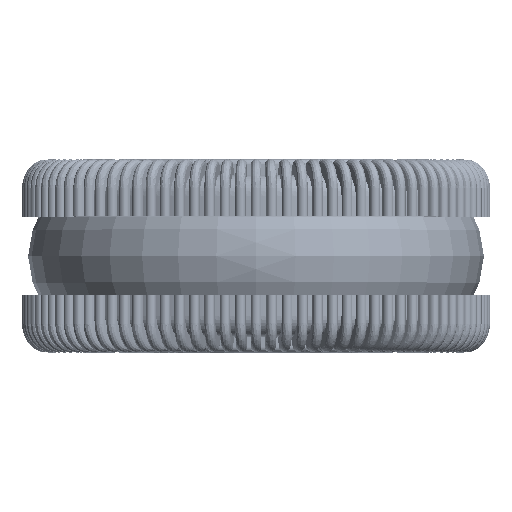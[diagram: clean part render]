
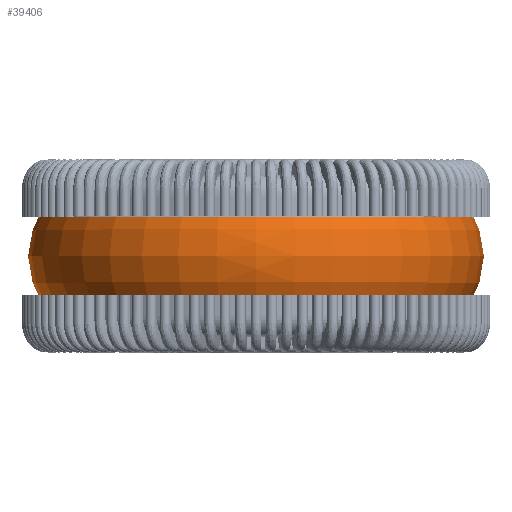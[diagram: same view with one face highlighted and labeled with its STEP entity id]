
A CAD part, top view. The second image highlights one B-rep face of the part: STEP entity #39406.
In plain terms, the highlighted toroidal (fillet/blend) face has major radius 57.661 mm and minor radius 30 mm.
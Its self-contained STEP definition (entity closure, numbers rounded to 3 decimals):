
#381=TOROIDAL_SURFACE('',#44007,57.661,30.);
#3071=CIRCLE('',#44006,83.7);
#3072=CIRCLE('',#44008,83.7);
#3073=CIRCLE('',#44009,30.);
#6639=FACE_OUTER_BOUND('',#9113,.T.);
#9113=EDGE_LOOP('',(#36304,#36305,#36306,#36307));
#18890=VERTEX_POINT('',#83259);
#18891=VERTEX_POINT('',#83263);
#24699=EDGE_CURVE('',#18890,#18890,#3071,.T.);
#24701=EDGE_CURVE('',#18891,#18891,#3072,.T.);
#24702=EDGE_CURVE('',#18891,#18890,#3073,.T.);
#36304=ORIENTED_EDGE('',*,*,#24701,.F.);
#36305=ORIENTED_EDGE('',*,*,#24702,.T.);
#36306=ORIENTED_EDGE('',*,*,#24699,.T.);
#36307=ORIENTED_EDGE('',*,*,#24702,.F.);
#39406=ADVANCED_FACE('',(#6639),#381,.T.);
#44006=AXIS2_PLACEMENT_3D('',#83260,#55825,#55826);
#44007=AXIS2_PLACEMENT_3D('',#83262,#55828,#55829);
#44008=AXIS2_PLACEMENT_3D('',#83264,#55830,#55831);
#44009=AXIS2_PLACEMENT_3D('',#83265,#55832,#55833);
#55825=DIRECTION('center_axis',(0.,1.,0.));
#55826=DIRECTION('ref_axis',(1.,0.,0.));
#55828=DIRECTION('center_axis',(0.,1.,0.));
#55829=DIRECTION('ref_axis',(0.,0.,1.));
#55830=DIRECTION('center_axis',(0.,1.,0.));
#55831=DIRECTION('ref_axis',(1.,0.,0.));
#55832=DIRECTION('center_axis',(-1.,0.,0.));
#55833=DIRECTION('ref_axis',(0.,0.,-1.));
#83259=CARTESIAN_POINT('',(0.,5.204,-83.7));
#83260=CARTESIAN_POINT('Origin',(0.,5.204,0.));
#83262=CARTESIAN_POINT('Origin',(0.,20.102,0.));
#83263=CARTESIAN_POINT('',(0.,35.,-83.7));
#83264=CARTESIAN_POINT('Origin',(0.,35.,0.));
#83265=CARTESIAN_POINT('Origin',(0.,20.102,
-57.661));
